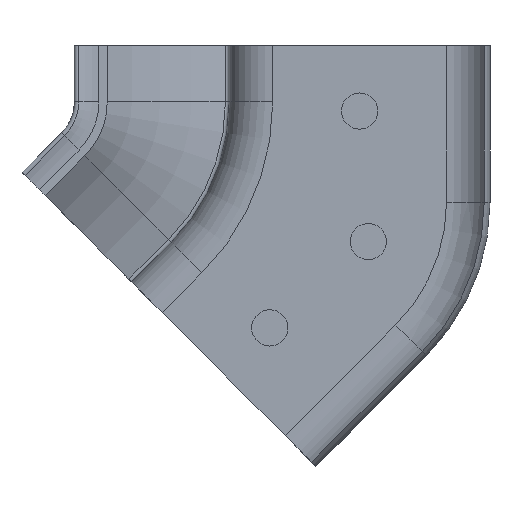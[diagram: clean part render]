
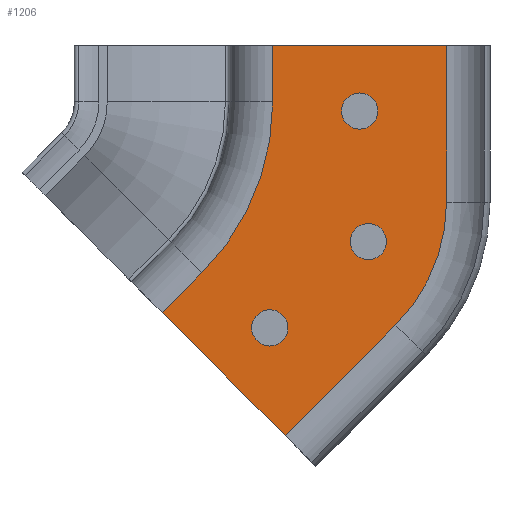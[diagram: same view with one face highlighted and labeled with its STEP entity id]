
A CAD part, front view. The second image highlights one B-rep face of the part: STEP entity #1206.
In plain terms, the highlighted planar face has unit normal (0, -1, 0).
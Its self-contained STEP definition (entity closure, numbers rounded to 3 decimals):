
#15 = CARTESIAN_POINT ( 'NONE',  ( -6., 0., -10.787 ) ) ;
#34 = VERTEX_POINT ( 'NONE', #963 ) ;
#47 = CIRCLE ( 'NONE', #863, 1.25 ) ;
#93 = EDGE_CURVE ( 'NONE', #916, #687, #153, .T. ) ;
#100 = AXIS2_PLACEMENT_3D ( 'NONE', #1281, #375, #847 ) ;
#109 = LINE ( 'NONE', #1993, #1850 ) ;
#139 = FACE_OUTER_BOUND ( 'NONE', #1374, .T. ) ;
#153 = LINE ( 'NONE', #1849, #219 ) ;
#160 = DIRECTION ( 'NONE',  ( 0., 0., 1. ) ) ;
#189 = CARTESIAN_POINT ( 'NONE',  ( 2.485, 0., -19.272 ) ) ;
#192 = VERTEX_POINT ( 'NONE', #391 ) ;
#207 = EDGE_CURVE ( 'NONE', #239, #34, #614, .T. ) ;
#219 = VECTOR ( 'NONE', #463, 1000. ) ;
#239 = VERTEX_POINT ( 'NONE', #853 ) ;
#259 = ORIENTED_EDGE ( 'NONE', *, *, #296, .T. ) ;
#284 = CARTESIAN_POINT ( 'NONE',  ( -14.335, 0., -17.707 ) ) ;
#293 = CARTESIAN_POINT ( 'NONE',  ( -6., 0., 0. ) ) ;
#296 = EDGE_CURVE ( 'NONE', #1784, #1784, #842, .T. ) ;
#332 = CARTESIAN_POINT ( 'NONE',  ( -6.203, 0., -19.475 ) ) ;
#363 = VECTOR ( 'NONE', #1460, 1000. ) ;
#375 = DIRECTION ( 'NONE',  ( 0., 1., 0. ) ) ;
#391 = CARTESIAN_POINT ( 'NONE',  ( 2.485, 0., -19.272 ) ) ;
#426 = EDGE_LOOP ( 'NONE', ( #259 ) ) ;
#427 = VERTEX_POINT ( 'NONE', #716 ) ;
#444 = EDGE_CURVE ( 'NONE', #1221, #1914, #608, .T. ) ;
#449 = VERTEX_POINT ( 'NONE', #293 ) ;
#463 = DIRECTION ( 'NONE',  ( 0., 0., 1. ) ) ;
#502 = CARTESIAN_POINT ( 'NONE',  ( -22.7, 0., -3.869 ) ) ;
#518 = DIRECTION ( 'NONE',  ( 0., 0., 1. ) ) ;
#539 = EDGE_CURVE ( 'NONE', #916, #192, #651, .T. ) ;
#605 = EDGE_CURVE ( 'NONE', #427, #427, #775, .T. ) ;
#608 = LINE ( 'NONE', #284, #1868 ) ;
#611 = ORIENTED_EDGE ( 'NONE', *, *, #1822, .F. ) ;
#614 = CIRCLE ( 'NONE', #1733, 16.7 ) ;
#651 = CIRCLE ( 'NONE', #1779, 12. ) ;
#658 = CARTESIAN_POINT ( 'NONE',  ( 6., 0., -10.787 ) ) ;
#687 = VERTEX_POINT ( 'NONE', #1758 ) ;
#716 = CARTESIAN_POINT ( 'NONE',  ( -6.203, 0., -18.225 ) ) ;
#734 = CARTESIAN_POINT ( 'NONE',  ( 0., 0., -3.25 ) ) ;
#771 = DIRECTION ( 'NONE',  ( 0., 0., 1. ) ) ;
#775 = CIRCLE ( 'NONE', #1287, 1.25 ) ;
#821 = VECTOR ( 'NONE', #1613, 1000. ) ;
#842 = CIRCLE ( 'NONE', #100, 1.25 ) ;
#847 = DIRECTION ( 'NONE',  ( 0., 0., 1. ) ) ;
#853 = CARTESIAN_POINT ( 'NONE',  ( -6., 0., -3.869 ) ) ;
#863 = AXIS2_PLACEMENT_3D ( 'NONE', #966, #1426, #518 ) ;
#907 = ORIENTED_EDGE ( 'NONE', *, *, #1101, .T. ) ;
#913 = FACE_BOUND ( 'NONE', #1585, .T. ) ;
#916 = VERTEX_POINT ( 'NONE', #658 ) ;
#955 = VERTEX_POINT ( 'NONE', #1066 ) ;
#963 = CARTESIAN_POINT ( 'NONE',  ( -10.891, 0., -15.678 ) ) ;
#966 = CARTESIAN_POINT ( 'NONE',  ( 0.598, 0., -13.52 ) ) ;
#1008 = LINE ( 'NONE', #189, #821 ) ;
#1066 = CARTESIAN_POINT ( 'NONE',  ( 0.598, 0., -12.27 ) ) ;
#1078 = AXIS2_PLACEMENT_3D ( 'NONE', #1970, #1367, #160 ) ;
#1101 = EDGE_CURVE ( 'NONE', #449, #239, #1664, .T. ) ;
#1105 = ORIENTED_EDGE ( 'NONE', *, *, #207, .T. ) ;
#1206 = ADVANCED_FACE ( 'NONE', ( #913, #1215, #1537, #139 ), #1679, .F. ) ;
#1215 = FACE_BOUND ( 'NONE', #1689, .T. ) ;
#1221 = VERTEX_POINT ( 'NONE', #1240 ) ;
#1230 = DIRECTION ( 'NONE',  ( 0., 0., -1. ) ) ;
#1240 = CARTESIAN_POINT ( 'NONE',  ( -5.142, 0., -26.899 ) ) ;
#1264 = VECTOR ( 'NONE', #1230, 1000. ) ;
#1281 = CARTESIAN_POINT ( 'NONE',  ( 0., 0., -4.5 ) ) ;
#1282 = EDGE_CURVE ( 'NONE', #449, #687, #109, .T. ) ;
#1287 = AXIS2_PLACEMENT_3D ( 'NONE', #332, #1890, #1400 ) ;
#1300 = DIRECTION ( 'NONE',  ( 0., 1., 0. ) ) ;
#1367 = DIRECTION ( 'NONE',  ( 0., 1., 0. ) ) ;
#1374 = EDGE_LOOP ( 'NONE', ( #1105, #1452, #1496, #611, #1639, #1536, #1524, #907 ) ) ;
#1377 = DIRECTION ( 'NONE',  ( 1., 0., 0. ) ) ;
#1400 = DIRECTION ( 'NONE',  ( 0., 0., 1. ) ) ;
#1426 = DIRECTION ( 'NONE',  ( 0., 1., 0. ) ) ;
#1452 = ORIENTED_EDGE ( 'NONE', *, *, #1527, .T. ) ;
#1460 = DIRECTION ( 'NONE',  ( -0.707, 0., -0.707 ) ) ;
#1496 = ORIENTED_EDGE ( 'NONE', *, *, #444, .F. ) ;
#1524 = ORIENTED_EDGE ( 'NONE', *, *, #1282, .F. ) ;
#1527 = EDGE_CURVE ( 'NONE', #34, #1914, #1812, .T. ) ;
#1536 = ORIENTED_EDGE ( 'NONE', *, *, #93, .T. ) ;
#1537 = FACE_BOUND ( 'NONE', #426, .T. ) ;
#1543 = DIRECTION ( 'NONE',  ( 0., 1., 0. ) ) ;
#1585 = EDGE_LOOP ( 'NONE', ( #1709 ) ) ;
#1613 = DIRECTION ( 'NONE',  ( -0.707, 0., -0.707 ) ) ;
#1639 = ORIENTED_EDGE ( 'NONE', *, *, #539, .F. ) ;
#1656 = CARTESIAN_POINT ( 'NONE',  ( -6., 0., -10.787 ) ) ;
#1664 = LINE ( 'NONE', #1979, #1264 ) ;
#1679 = PLANE ( 'NONE',  #1078 ) ;
#1689 = EDGE_LOOP ( 'NONE', ( #1774 ) ) ;
#1709 = ORIENTED_EDGE ( 'NONE', *, *, #605, .T. ) ;
#1733 = AXIS2_PLACEMENT_3D ( 'NONE', #502, #1300, #1921 ) ;
#1758 = CARTESIAN_POINT ( 'NONE',  ( 6., 0., 0. ) ) ;
#1774 = ORIENTED_EDGE ( 'NONE', *, *, #1803, .T. ) ;
#1779 = AXIS2_PLACEMENT_3D ( 'NONE', #15, #1543, #771 ) ;
#1784 = VERTEX_POINT ( 'NONE', #734 ) ;
#1803 = EDGE_CURVE ( 'NONE', #955, #955, #47, .T. ) ;
#1812 = LINE ( 'NONE', #1656, #363 ) ;
#1822 = EDGE_CURVE ( 'NONE', #192, #1221, #1008, .T. ) ;
#1842 = DIRECTION ( 'NONE',  ( -0.707, 0., 0.707 ) ) ;
#1849 = CARTESIAN_POINT ( 'NONE',  ( 6., 0., -10.787 ) ) ;
#1850 = VECTOR ( 'NONE', #1377, 1000. ) ;
#1868 = VECTOR ( 'NONE', #1842, 1000. ) ;
#1890 = DIRECTION ( 'NONE',  ( 0., 1., 0. ) ) ;
#1914 = VERTEX_POINT ( 'NONE', #1955 ) ;
#1921 = DIRECTION ( 'NONE',  ( 0., 0., 1. ) ) ;
#1955 = CARTESIAN_POINT ( 'NONE',  ( -13.627, 0., -18.414 ) ) ;
#1970 = CARTESIAN_POINT ( 'NONE',  ( -6., 0., -10.787 ) ) ;
#1979 = CARTESIAN_POINT ( 'NONE',  ( -6., 0., -3.869 ) ) ;
#1993 = CARTESIAN_POINT ( 'NONE',  ( -7., 0., 0. ) ) ;
